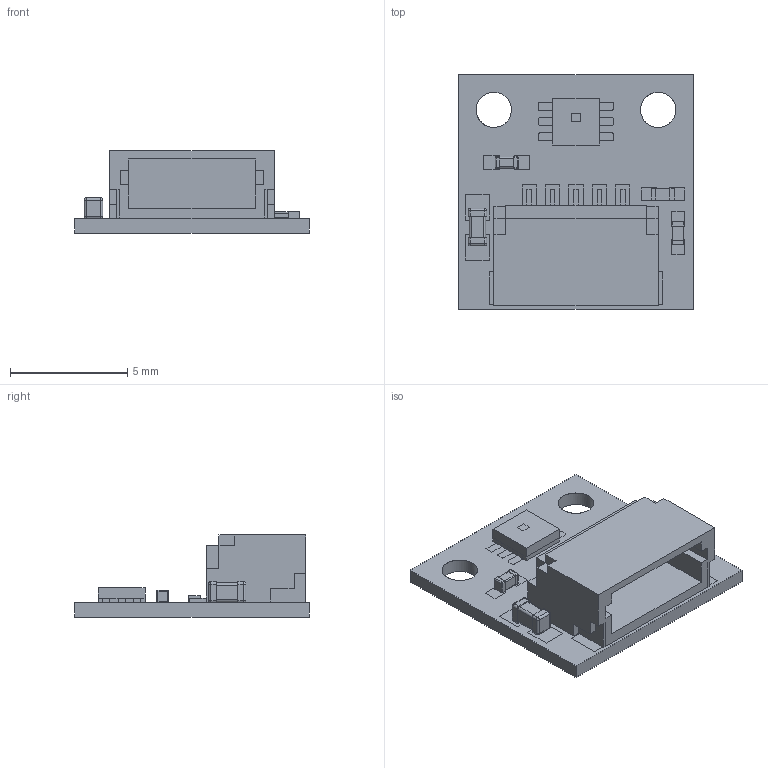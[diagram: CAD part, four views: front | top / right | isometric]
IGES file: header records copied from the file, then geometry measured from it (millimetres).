
Global section: file name: Filename.iges; native system: Open CASCADE 7.4; preprocessor: Open CASCADE IGES processor 7.4; date: 20200728.140449; units: millimetre
Bounding box: 10 x 10 x 3.5 mm (x, y, z)
Surface area: 709.8 mm2 (no closed solid volume)
Topology: 0 solids, 0 shells, 623 faces, 3254 edges, 4566 vertices
Faces by surface type: plane 487, revolution 136
